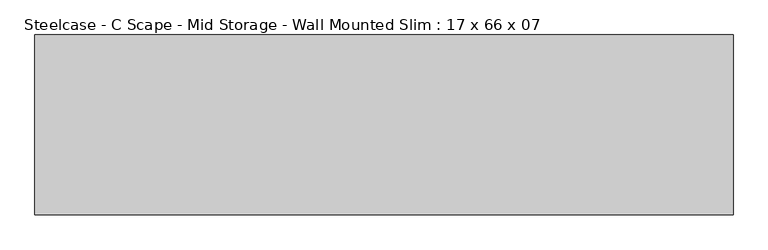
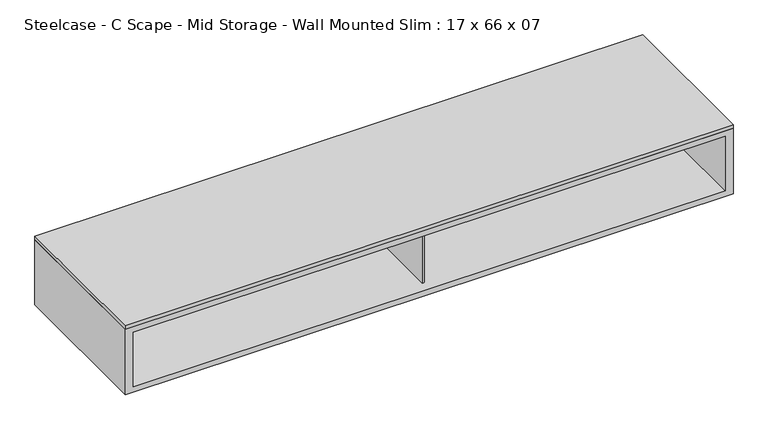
"""IFC4 building model written with IfcOpenShell, lengths in millimetres: furniture geometry, Steelcase - C Scape - Mid Storage - Wall Mounted Slim : 17 x 66 x 07."""

from ifc_helpers import new_model, si_unit, frame, origin, place, context, project, spatial, polyline, outline, extrude, faceted_brep, source, transform, mapped, element, save


def steelcase_c_scape_mid_storage_wall_mounted_slim_17_x_66_x_07_0654e317(model_context):
    return source(origin(), model_context, "Body", "SolidModel", [
        extrude(outline(polyline([(1676.4, 215.9), (1676.4, -215.9), (0.0, -215.9), (0.0, 215.9), (1676.4, 215.9)])), frame((0.0, 0.0, 1028.7), z_axis=(0.0, 0.0, 1.0), x_axis=(1.0, 0.0, 0.0)), (0.0, 0.0, 1.0), 10.16),
        extrude(outline(polyline([(835.025, -187.1471039), (835.025, 206.3755809), (841.375, 206.3755809), (841.375, -187.1471039), (835.025, -187.1471039)])), frame((0.0, 0.0, 853.4399855), z_axis=(0.0, 0.0, 1.0), x_axis=(1.0, 0.0, 0.0)), (0.0, 0.0, 1.0), 160.0200145),
        faceted_brep([(1676.4, -215.9, 1028.7), (0.0, -215.9, 1028.7), (0.0, -215.9, 838.2), (1676.4, -215.9, 838.2), (1654.302, -215.9, 1013.46), (1654.302, -215.9, 853.4399855), (21.9711633, -215.9, 853.4399855), (21.9711633, -215.9, 1013.46), (1676.4, 215.9, 1028.7), (1676.4, 215.9, 838.2), (0.0, 215.9, 838.2), (0.0, 215.9, 1028.7), (1654.302, 206.3755809, 1013.46), (1654.302, 206.3755809, 853.4399855), (827.8619767, 206.3755809, 853.4399855), (21.9711633, 206.3755809, 853.4399855), (21.9711633, 206.3755809, 1013.46), (827.8619767, 206.3755809, 1013.46)], [[[0, 1, 2, 3], [4, 5, 6, 7]], [[8, 9, 10, 11]], [[1, 0, 8, 11]], [[2, 1, 11, 10]], [[3, 2, 10, 9]], [[0, 3, 9, 8]], [[5, 4, 12, 13]], [[6, 5, 13, 14, 15]], [[7, 6, 15, 16]], [[4, 7, 16, 17, 12]], [[14, 17, 16, 15]], [[17, 14, 13, 12]]]),
    ])


if __name__ == "__main__":
    model = new_model("IFC4")
    model_context = context("Model", 3, world=origin())
    ifc_project = project(units=[si_unit("LENGTHUNIT", "METRE", prefix="MILLI")], contexts=[model_context])
    site = spatial("IfcSite", under=ifc_project)
    building = spatial("IfcBuilding", under=site)
    placement = place(None, origin())
    steelcase_c_scape_mid_storage_wall_mounted_slim_17_x_66_x_07_shape = steelcase_c_scape_mid_storage_wall_mounted_slim_17_x_66_x_07_0654e317(model_context)
    element("IfcFurniture", 1, ObjectType="Steelcase - C Scape - Mid Storage - Wall Mounted Slim : 17 x 66 x 07", at=placement, inside=building, context=model_context, shape_type="MappedRepresentation", body=[
        mapped(steelcase_c_scape_mid_storage_wall_mounted_slim_17_x_66_x_07_shape, transform((0.0, 0.0, 0.0), x_axis=(1.0, 0.0, 0.0), y_axis=(0.0, 1.0, 0.0), z_axis=(0.0, 0.0, 1.0))),
    ])
    save(model, "model.ifc")
